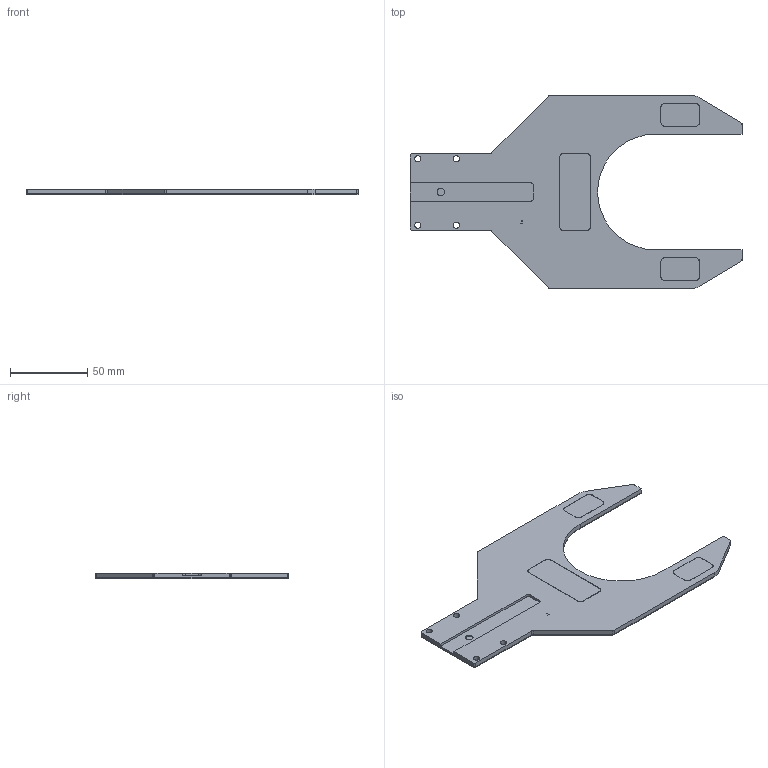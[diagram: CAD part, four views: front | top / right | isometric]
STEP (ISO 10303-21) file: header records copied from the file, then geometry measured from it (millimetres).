
FILE_DESCRIPTION(('FreeCAD Model'),'2;1');
FILE_NAME('Open CASCADE Shape Model','2024-09-30T14:38:46',(''),(''), 'Open CASCADE STEP processor 7.6','FreeCAD','Unknown');
FILE_SCHEMA(('AUTOMOTIVE_DESIGN { 1 0 10303 214 1 1 1 1 }'));
Length unit declared in the file: millimetre
Products named in the file (18): NA2402281_UniZac_Pair8______________; NA2402281; NA2402282{ʱ; NA2402284½E¿1; NA2402285½E¿2; NA2402285½E¿003; NA2402283{ʲ; ______2; Path019; Path010; Path011; Path012; Path013; Path014; Path015; Path016; Path017; Path018
Assembly tree (22 placements, depth 3):
  NA2402281_UniZac_Pair8______________
    NA2402281
      NA2402282{ʱ
      NA2402284½E¿1
      NA2402285½E¿2
      NA2402285½E¿003
      NA2402283{ʲ
    NA2402282{ʱ
    NA2402284½E¿1
    NA2402285½E¿2
    NA2402285½E¿003
    NA2402283{ʲ
    ______2
      Path019
      Path010
      Path011
      Path012
      Path013
      Path014
      Path015
      Path016
      Path017
      Path018
Bounding box: 215 x 125 x 3.5 mm (x, y, z)
Volume: 94728.8 mm3; surface area: 126485.5 mm2
Topology: 10 solids, 11 shells, 415 faces, 1246 edges, 1160 vertices
Faces by surface type: plane 232, cylinder 158, cone 24, bspline 1
Entity records: 16749 total; most frequent: CARTESIAN_POINT 3519, DIRECTION 2273, LINE 1379, VECTOR 1379, ORIENTED_EDGE 1142, PCURVE 1142, DEFINITIONAL_REPRESENTATION 1142, EDGE_CURVE 573
